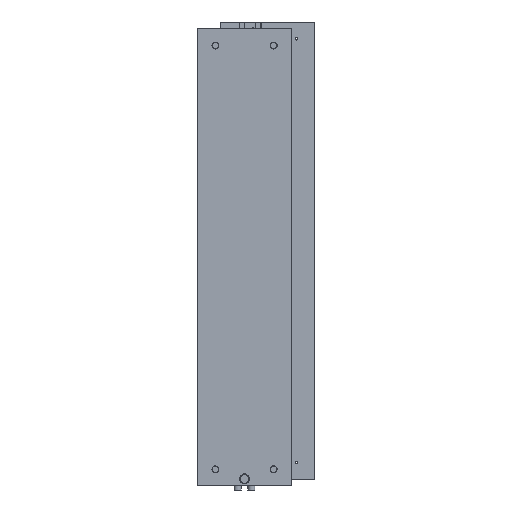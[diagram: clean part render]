
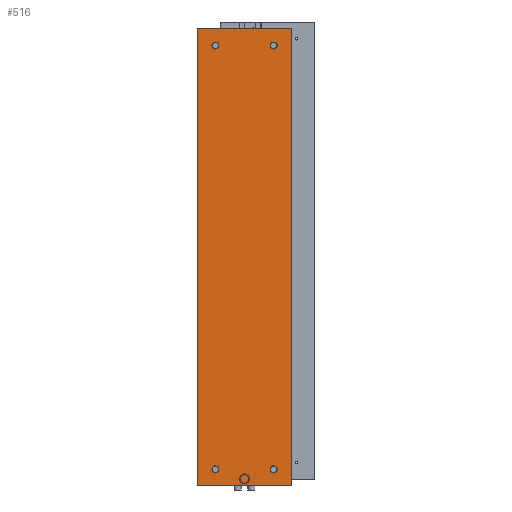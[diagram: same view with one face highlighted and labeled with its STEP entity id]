
A CAD part, front view. The second image highlights one B-rep face of the part: STEP entity #516.
In plain terms, the highlighted planar face has unit normal (0, -1, 0).
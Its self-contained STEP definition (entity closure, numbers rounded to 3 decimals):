
#516 = ADVANCED_FACE( '', ( #1148, #1149, #1150, #1151, #1152 ), #1153, .T. );
#1148 = FACE_BOUND( '', #1946, .T. );
#1149 = FACE_BOUND( '', #1947, .T. );
#1150 = FACE_OUTER_BOUND( '', #1948, .T. );
#1151 = FACE_BOUND( '', #1949, .T. );
#1152 = FACE_BOUND( '', #1950, .T. );
#1153 = PLANE( '', #1951 );
#1946 = EDGE_LOOP( '', ( #3957 ) );
#1947 = EDGE_LOOP( '', ( #3958 ) );
#1948 = EDGE_LOOP( '', ( #3959, #3960, #3961, #3962 ) );
#1949 = EDGE_LOOP( '', ( #3963 ) );
#1950 = EDGE_LOOP( '', ( #3964 ) );
#1951 = AXIS2_PLACEMENT_3D( '', #3965, #3966, #3967 );
#3957 = ORIENTED_EDGE( '', *, *, #5003, .T. );
#3958 = ORIENTED_EDGE( '', *, *, #5262, .T. );
#3959 = ORIENTED_EDGE( '', *, *, #5295, .T. );
#3960 = ORIENTED_EDGE( '', *, *, #5075, .T. );
#3961 = ORIENTED_EDGE( '', *, *, #5186, .T. );
#3962 = ORIENTED_EDGE( '', *, *, #5299, .T. );
#3963 = ORIENTED_EDGE( '', *, *, #5149, .T. );
#3964 = ORIENTED_EDGE( '', *, *, #5300, .T. );
#3965 = CARTESIAN_POINT( '', ( -87.18, 0., 0. ) );
#3966 = DIRECTION( '', ( 0., -1., 0. ) );
#3967 = DIRECTION( '', ( 0., 0., -1. ) );
#5003 = EDGE_CURVE( '', #5586, #5586, #5587, .T. );
#5075 = EDGE_CURVE( '', #5710, #5711, #5712, .T. );
#5149 = EDGE_CURVE( '', #5831, #5831, #5832, .T. );
#5186 = EDGE_CURVE( '', #5711, #5889, #5890, .T. );
#5262 = EDGE_CURVE( '', #6006, #6006, #6007, .T. );
#5295 = EDGE_CURVE( '', #6056, #5710, #6057, .T. );
#5299 = EDGE_CURVE( '', #5889, #6056, #6062, .T. );
#5300 = EDGE_CURVE( '', #6063, #6063, #6064, .T. );
#5586 = VERTEX_POINT( '', #7084 );
#5587 = CIRCLE( '', #7085, 5. );
#5710 = VERTEX_POINT( '', #7410 );
#5711 = VERTEX_POINT( '', #7411 );
#5712 = LINE( '', #7412, #7413 );
#5831 = VERTEX_POINT( '', #8153 );
#5832 = CIRCLE( '', #8154, 5. );
#5889 = VERTEX_POINT( '', #8905 );
#5890 = LINE( '', #8906, #8907 );
#6006 = VERTEX_POINT( '', #9779 );
#6007 = CIRCLE( '', #9780, 5. );
#6056 = VERTEX_POINT( '', #10005 );
#6057 = LINE( '', #10006, #10007 );
#6062 = LINE( '', #10014, #10015 );
#6063 = VERTEX_POINT( '', #10016 );
#6064 = CIRCLE( '', #10017, 5. );
#7084 = CARTESIAN_POINT( '', ( 187.82, 0., 65. ) );
#7085 = AXIS2_PLACEMENT_3D( '', #11353, #11354, #11355 );
#7410 = CARTESIAN_POINT( '', ( -87.18, 0., 0. ) );
#7411 = CARTESIAN_POINT( '', ( 252.82, 0., 0. ) );
#7412 = CARTESIAN_POINT( '', ( -87.18, 0., 0. ) );
#7413 = VECTOR( '', #11455, 1000. );
#8153 = CARTESIAN_POINT( '', ( 187.82, 0., 1595. ) );
#8154 = AXIS2_PLACEMENT_3D( '', #11538, #11539, #11540 );
#8905 = CARTESIAN_POINT( '', ( 252.82, 0., 1650. ) );
#8906 = CARTESIAN_POINT( '', ( 252.82, 0., 0. ) );
#8907 = VECTOR( '', #11578, 1000. );
#9779 = CARTESIAN_POINT( '', ( -22.18, 0., 1595. ) );
#9780 = AXIS2_PLACEMENT_3D( '', #11635, #11636, #11637 );
#10005 = CARTESIAN_POINT( '', ( -87.18, 0., 1650. ) );
#10006 = CARTESIAN_POINT( '', ( -87.18, 0., 1650. ) );
#10007 = VECTOR( '', #11666, 1000. );
#10014 = CARTESIAN_POINT( '', ( 252.82, 0., 1650. ) );
#10015 = VECTOR( '', #11669, 1000. );
#10016 = CARTESIAN_POINT( '', ( -22.18, 0., 65. ) );
#10017 = AXIS2_PLACEMENT_3D( '', #11670, #11671, #11672 );
#11353 = CARTESIAN_POINT( '', ( 187.82, 0., 60. ) );
#11354 = DIRECTION( '', ( 0., 1., 0. ) );
#11355 = DIRECTION( '', ( 0., 0., 1. ) );
#11455 = DIRECTION( '', ( 1., 0., 0. ) );
#11538 = CARTESIAN_POINT( '', ( 187.82, 0., 1590. ) );
#11539 = DIRECTION( '', ( 0., 1., 0. ) );
#11540 = DIRECTION( '', ( 0., 0., 1. ) );
#11578 = DIRECTION( '', ( 0., 0., 1. ) );
#11635 = CARTESIAN_POINT( '', ( -22.18, 0., 1590. ) );
#11636 = DIRECTION( '', ( 0., 1., 0. ) );
#11637 = DIRECTION( '', ( 0., 0., 1. ) );
#11666 = DIRECTION( '', ( 0., 0., -1. ) );
#11669 = DIRECTION( '', ( -1., 0., 0. ) );
#11670 = CARTESIAN_POINT( '', ( -22.18, 0., 60. ) );
#11671 = DIRECTION( '', ( 0., 1., 0. ) );
#11672 = DIRECTION( '', ( 0., 0., 1. ) );
